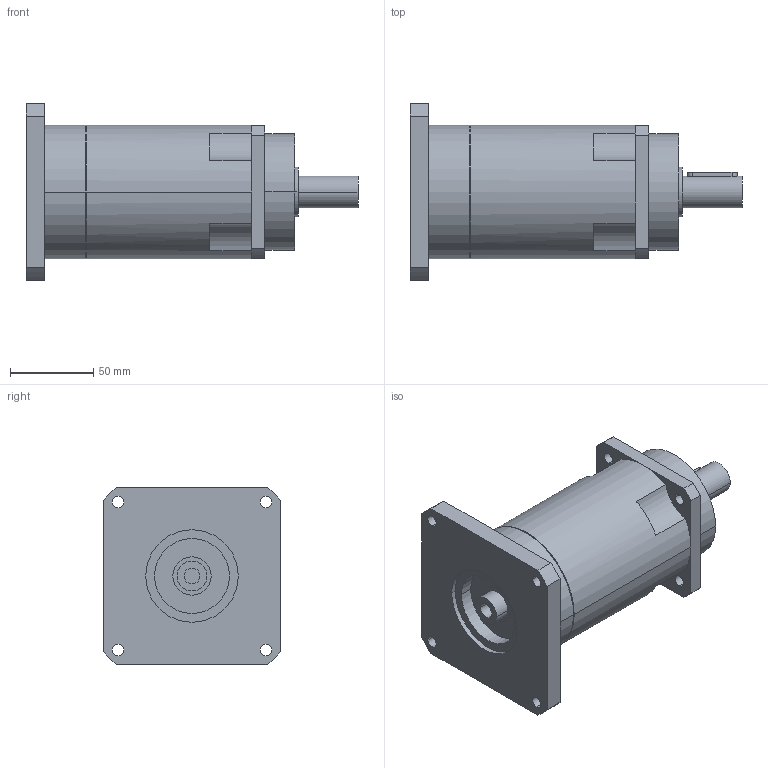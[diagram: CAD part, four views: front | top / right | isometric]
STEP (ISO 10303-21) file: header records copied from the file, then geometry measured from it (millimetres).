
FILE_DESCRIPTION(('CoCreate Modeling STEP Export'),'2;1');
FILE_NAME('GPR100_ig-48-64-80-100-120-144-180-216_19_B5_9.52_P02.stp','2014-08-26T11:57:36',(''),(''),'CoCreate Modeling STEP processor for AP214 (Solid Model)','CoCreate Modeling 16.00C 25-Feb-2009 (C) Parametric Technology GmbH','');
FILE_SCHEMA(('AUTOMOTIVE_DESIGN { 1 0 10303 214 1 1 1 1 }'));
Length unit declared in the file: millimetre
Products named in the file (2): GPR100_ig-48-64-80-100-120-144-180-216_19_B5_9.52_P02
Assembly tree (1 placements, depth 2):
  GPR100_ig-48-64-80-100-120-144-180-216_19_B5_9.52_P02
    GPR100_ig-48-64-80-100-120-144-180-216_19_B5_9.52_P02
Bounding box: 199.4 x 106.5 x 106.5 mm (x, y, z)
Volume: 849471.2 mm3; surface area: 75048 mm2
Topology: 1 solids, 1 shells, 89 faces, 245 edges, 167 vertices
Faces by surface type: cylinder 52, plane 31, cone 6
Entity records: 2602 total; most frequent: ORIENTED_EDGE 486, CARTESIAN_POINT 472, DIRECTION 386, EDGE_CURVE 243, VERTEX_POINT 167, AXIS2_PLACEMENT_3D 145, EDGE_LOOP 116, VECTOR 96
